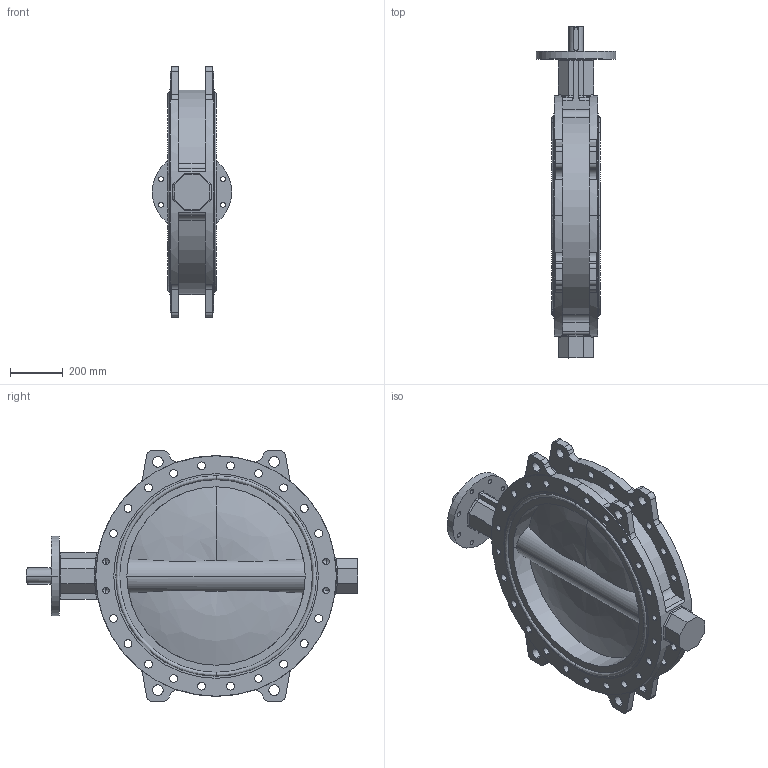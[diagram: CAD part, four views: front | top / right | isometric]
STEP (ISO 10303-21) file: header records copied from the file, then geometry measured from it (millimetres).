
FILE_DESCRIPTION (( 'STEP AP203' ), '1' );
FILE_NAME ('4831077_Axel-Larsson.step', '2023-10-04T13:38:42', ( '' ), ( '' ), 'SwSTEP 2.0', 'SolidWorks 2014', '' );
FILE_SCHEMA (( 'CONFIG_CONTROL_DESIGN' ));
Length unit declared in the file: millimetre
Products named in the file (5): 924U70000_PN10.sldasm-Part-2; 4831077_Axel-Larsson; 924U70000_PN10.sldasm-Part-3; 924U70000_PN10.sldasm-Part-1; 924U70000_PN10-1
Assembly tree (4 placements, depth 3):
  4831077_Axel-Larsson
    924U70000_PN10-1
      924U70000_PN10.sldasm-Part-1
      924U70000_PN10.sldasm-Part-2
      924U70000_PN10.sldasm-Part-3
Bounding box: 300 x 1256 x 947 mm (x, y, z)
Volume: 61903111.5 mm3; surface area: 2999667.8 mm2
Topology: 3 solids, 11 shells, 424 faces, 1143 edges, 726 vertices
Faces by surface type: cylinder 248, plane 106, bspline 38, cone 32
Entity records: 16303 total; most frequent: CARTESIAN_POINT 5031, DIRECTION 2291, ORIENTED_EDGE 2222, EDGE_CURVE 1111, AXIS2_PLACEMENT_3D 900, VERTEX_POINT 726, EDGE_LOOP 553, CIRCLE 506
